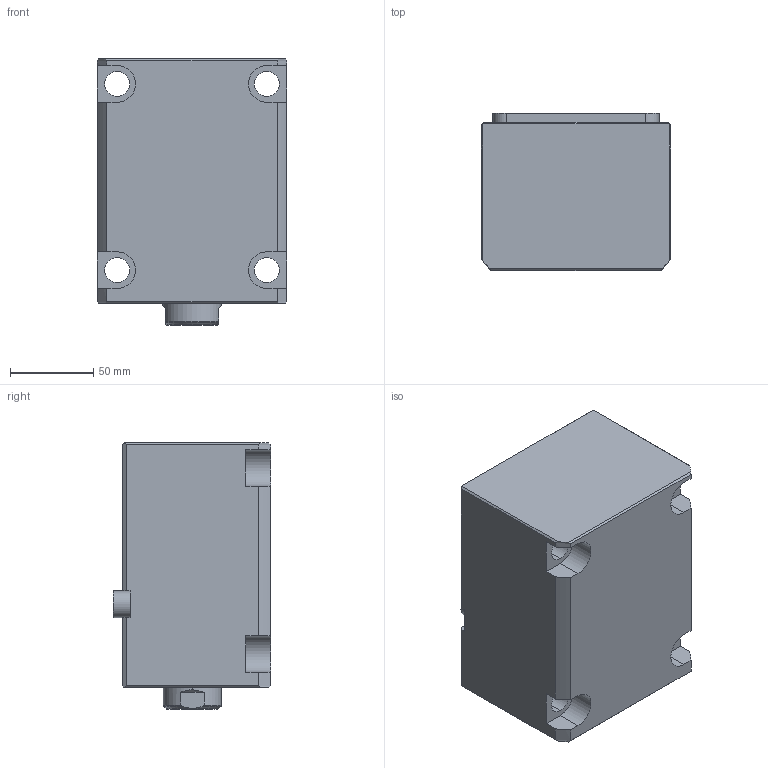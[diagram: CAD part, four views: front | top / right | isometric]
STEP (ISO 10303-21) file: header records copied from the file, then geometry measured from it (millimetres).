
FILE_DESCRIPTION (( 'STEP AP214' ), '1' );
FILE_NAME ('chtb-lam63x80n_asm.STEP', '2018-05-22T03:15:26', ( 'Windows' ), ( 'Microsoft' ), 'SwSTEP 2.0', 'SolidWorks 2015', '' );
FILE_SCHEMA (( 'AUTOMOTIVE_DESIGN' ));
Length unit declared in the file: millimetre
Products named in the file (5): CHTB-LAM63X80NBT; CHTB-LA63PJ; CHTB63X80NHSG; CHTB-63QG; chtb-lam63x80n_asm
Assembly tree (4 placements, depth 2):
  chtb-lam63x80n_asm
    CHTB-63QG
    CHTB63X80NHSG
    CHTB-LA63PJ
    CHTB-LAM63X80NBT
Bounding box: 114 x 94.5 x 160 mm (x, y, z)
Volume: 1243835.3 mm3; surface area: 172125.5 mm2
Topology: 4 solids, 4 shells, 183 faces, 539 edges, 366 vertices
Faces by surface type: cylinder 99, plane 55, bspline 13, cone 8, torus 8
Entity records: 19040 total; most frequent: CARTESIAN_POINT 14352, ORIENTED_EDGE 1066, DIRECTION 788, EDGE_CURVE 533, VERTEX_POINT 366, AXIS2_PLACEMENT_3D 291, VECTOR 206, LINE 206
